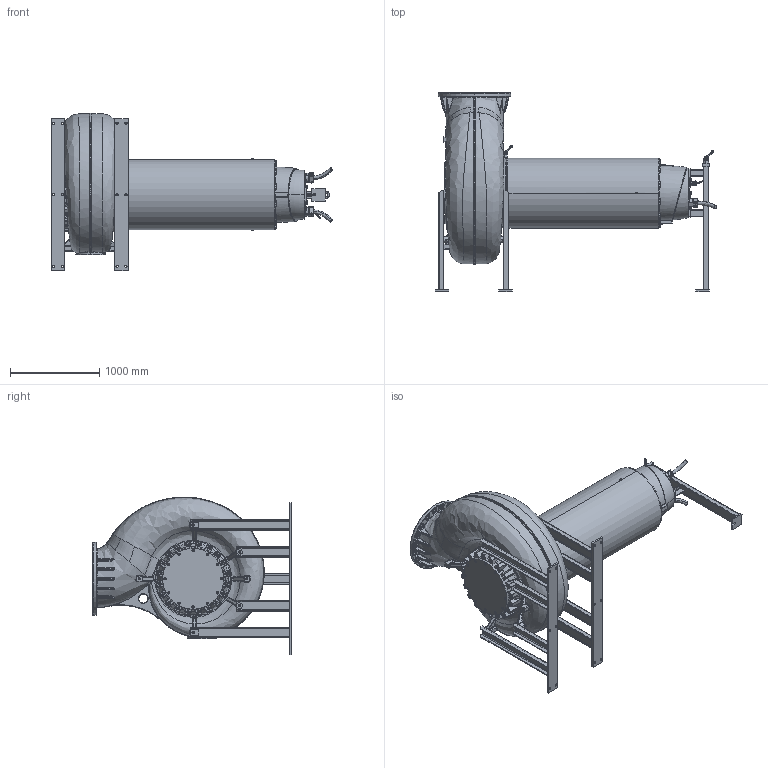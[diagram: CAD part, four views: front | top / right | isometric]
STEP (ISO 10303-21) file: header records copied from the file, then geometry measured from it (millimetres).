
FILE_DESCRIPTION (( 'STEP AP214' ), '1' );
FILE_NAME ('PE7_XFP600-SK3_DRY HA_E.STEP', '2017-04-04T06:04:11', ( '' ), ( '' ), 'SwSTEP 2.0', 'SolidWorks 2017', '' );
FILE_SCHEMA (( 'AUTOMOTIVE_DESIGN' ));
Length unit declared in the file: millimetre
Products named in the file (1): PE7_XFP600-SK3_DRY HA_E
Bounding box: 3141.97 x 2225 x 1762.72 mm (x, y, z)
Volume: 2124044141.8 mm3; surface area: 19035733.5 mm2
Topology: 6 solids, 27 shells, 4788 faces, 11757 edges, 6922 vertices
Faces by surface type: plane 1381, bspline 1350, cylinder 999, cone 443, torus 415, sphere 200
Entity records: 294646 total; most frequent: CARTESIAN_POINT 140319, ORIENTED_EDGE 22834, DIRECTION 18848, EDGE_CURVE 11417, AXIS2_PLACEMENT_3D 7426, VERTEX_POINT 6908, EDGE_LOOP 5175, UNCERTAINTY_MEASURE_WITH_UNIT 4796
